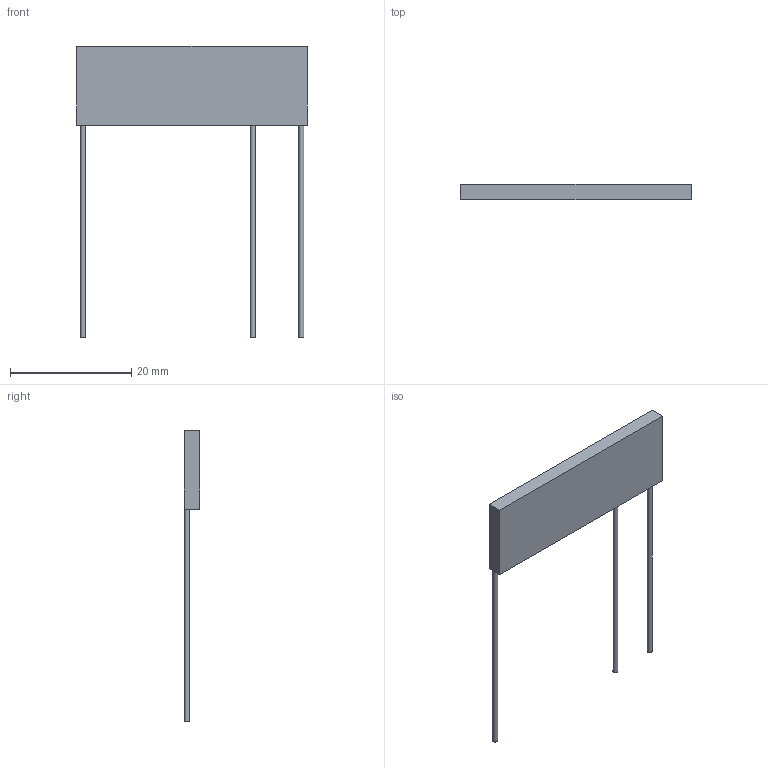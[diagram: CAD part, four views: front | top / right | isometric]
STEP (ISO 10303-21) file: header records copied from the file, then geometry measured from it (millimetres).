
FILE_DESCRIPTION(('STEP AP203'), '1');
FILE_NAME('NR1-77-2-1', '', ('UNSPECIFIED'), ('UNSPECIFIED'), 'ASCON STEP Converter 1.6', 'ASCON Math Kernel', '');
FILE_SCHEMA(('CONFIG_CONTROL_DESIGN'));
Length unit declared in the file: millimetre
Bounding box: 38 x 2.5 x 48 mm (x, y, z)
Volume: 1287.8 mm3; surface area: 1506.9 mm2
Topology: 1 solids, 1 shells, 12 faces, 27 edges, 17 vertices
Faces by surface type: plane 9, cylinder 3
Full cylindrical faces by diameter (mm): 0.8 x3
Entity records: 461 total; most frequent: DIRECTION 59, CARTESIAN_POINT 54, ORIENTED_EDGE 48, EDGE_CURVE 24, AXIS2_PLACEMENT_3D 22, VERTEX_POINT 17, EDGE_LOOP 15, LINE 15
